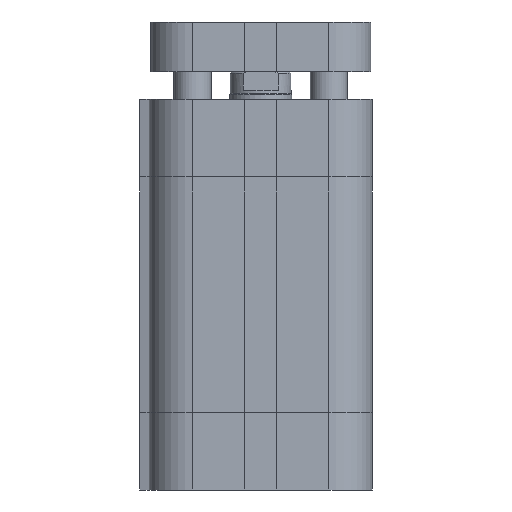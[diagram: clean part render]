
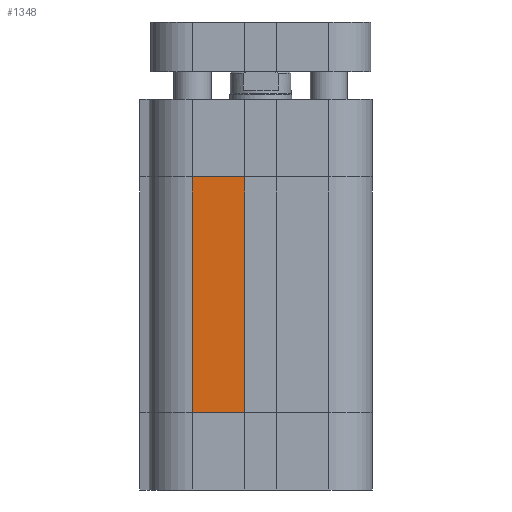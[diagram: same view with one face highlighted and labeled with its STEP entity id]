
A CAD part, left-side view. The second image highlights one B-rep face of the part: STEP entity #1348.
In plain terms, the highlighted planar face has unit normal (-1, 0, 0).
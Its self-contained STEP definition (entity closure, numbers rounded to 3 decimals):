
#1259=CARTESIAN_POINT('',(-18.,11.0,12.5));
#1260=VERTEX_POINT('',#1259);
#1268=CARTESIAN_POINT('',(-18.,11.0,50.5));
#1269=VERTEX_POINT('',#1268);
#1270=CARTESIAN_POINT('',(-18.,11.0,12.5));
#1271=DIRECTION('',(0.0,0.0,1.0));
#1272=VECTOR('',#1271,38.);
#1273=LINE('',#1270,#1272);
#1274=EDGE_CURVE('',#1260,#1269,#1273,.T.);
#1318=CARTESIAN_POINT('',(-18.0,2.6,0.0));
#1319=DIRECTION('',(-1.0,0.0,0.0));
#1320=DIRECTION('',(0.0,0.0,1.0));
#1321=AXIS2_PLACEMENT_3D('',#1318,#1319,#1320);
#1322=PLANE('',#1321);
#1323=CARTESIAN_POINT('',(-18.0,2.6,12.5));
#1324=VERTEX_POINT('',#1323);
#1325=CARTESIAN_POINT('',(-18.,11.0,12.5));
#1326=DIRECTION('',(0.0,-1.0,0.0));
#1327=VECTOR('',#1326,8.4);
#1328=LINE('',#1325,#1327);
#1329=EDGE_CURVE('',#1260,#1324,#1328,.T.);
#1330=ORIENTED_EDGE('',*,*,#1329,.T.);
#1331=CARTESIAN_POINT('',(-18.0,2.6,50.5));
#1332=VERTEX_POINT('',#1331);
#1333=CARTESIAN_POINT('',(-18.0,2.6,12.5));
#1334=DIRECTION('',(0.0,0.0,1.0));
#1335=VECTOR('',#1334,38.);
#1336=LINE('',#1333,#1335);
#1337=EDGE_CURVE('',#1324,#1332,#1336,.T.);
#1338=ORIENTED_EDGE('',*,*,#1337,.T.);
#1339=CARTESIAN_POINT('',(-18.,11.0,50.5));
#1340=DIRECTION('',(0.0,-1.0,0.0));
#1341=VECTOR('',#1340,8.4);
#1342=LINE('',#1339,#1341);
#1343=EDGE_CURVE('',#1269,#1332,#1342,.T.);
#1344=ORIENTED_EDGE('',*,*,#1343,.F.);
#1345=ORIENTED_EDGE('',*,*,#1274,.F.);
#1346=EDGE_LOOP('',(#1330,#1338,#1344,#1345));
#1347=FACE_OUTER_BOUND('',#1346,.T.);
#1348=ADVANCED_FACE('',(#1347),#1322,.T.);
